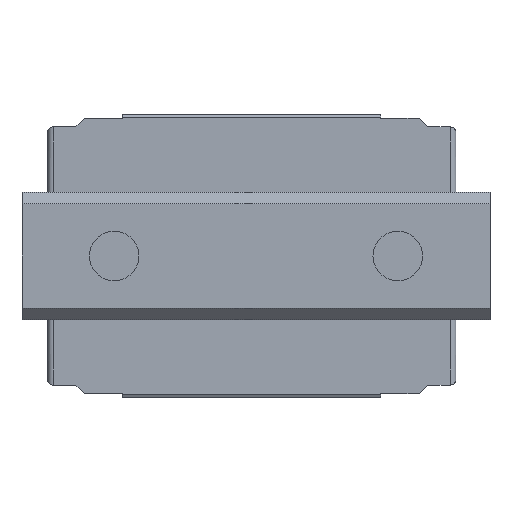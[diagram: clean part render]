
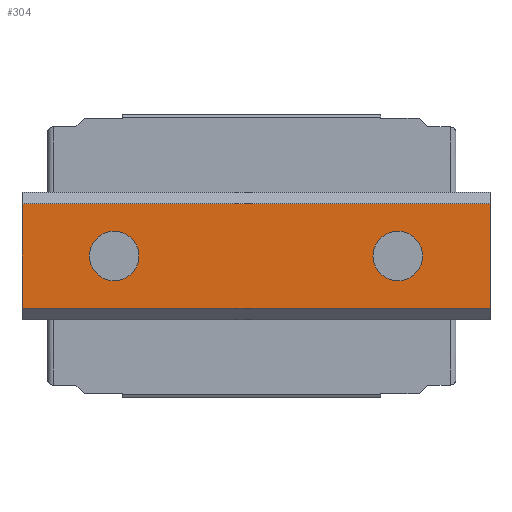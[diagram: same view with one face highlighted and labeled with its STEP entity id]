
A CAD part, front view. The second image highlights one B-rep face of the part: STEP entity #304.
In plain terms, the highlighted planar face has unit normal (0, -1, 0).
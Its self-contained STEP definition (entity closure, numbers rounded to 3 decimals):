
#304 = ADVANCED_FACE( '', ( #632, #633, #634 ), #635, .F. );
#632 = FACE_BOUND( '', #988, .T. );
#633 = FACE_BOUND( '', #989, .T. );
#634 = FACE_OUTER_BOUND( '', #990, .T. );
#635 = PLANE( '', #991 );
#988 = EDGE_LOOP( '', ( #1703 ) );
#989 = EDGE_LOOP( '', ( #1704 ) );
#990 = EDGE_LOOP( '', ( #1705, #1706, #1707, #1708 ) );
#991 = AXIS2_PLACEMENT_3D( '', #1709, #1710, #1711 );
#1703 = ORIENTED_EDGE( '', *, *, #2247, .T. );
#1704 = ORIENTED_EDGE( '', *, *, #2214, .T. );
#1705 = ORIENTED_EDGE( '', *, *, #2323, .T. );
#1706 = ORIENTED_EDGE( '', *, *, #2296, .F. );
#1707 = ORIENTED_EDGE( '', *, *, #2313, .F. );
#1708 = ORIENTED_EDGE( '', *, *, #2184, .T. );
#1709 = CARTESIAN_POINT( '', ( 16.5, 0., 3.7 ) );
#1710 = DIRECTION( '', ( 0., 1., 0. ) );
#1711 = DIRECTION( '', ( 0., 0., 1. ) );
#2184 = EDGE_CURVE( '', #2641, #2639, #2642, .T. );
#2214 = EDGE_CURVE( '', #2686, #2686, #2687, .T. );
#2247 = EDGE_CURVE( '', #2734, #2734, #2735, .T. );
#2296 = EDGE_CURVE( '', #2807, #2802, #2809, .T. );
#2313 = EDGE_CURVE( '', #2641, #2807, #2830, .T. );
#2323 = EDGE_CURVE( '', #2639, #2802, #2840, .T. );
#2639 = VERTEX_POINT( '', #3246 );
#2641 = VERTEX_POINT( '', #3249 );
#2642 = LINE( '', #3250, #3251 );
#2686 = VERTEX_POINT( '', #3310 );
#2687 = CIRCLE( '', #3311, 1.75 );
#2734 = VERTEX_POINT( '', #3380 );
#2735 = CIRCLE( '', #3381, 1.75 );
#2802 = VERTEX_POINT( '', #3468 );
#2807 = VERTEX_POINT( '', #3475 );
#2809 = LINE( '', #3478, #3479 );
#2830 = LINE( '', #3506, #3507 );
#2840 = LINE( '', #3520, #3521 );
#3246 = CARTESIAN_POINT( '', ( -16.5, 0., 3.7 ) );
#3249 = CARTESIAN_POINT( '', ( 16.5, 0., 3.7 ) );
#3250 = CARTESIAN_POINT( '', ( 16.5, 0., 3.7 ) );
#3251 = VECTOR( '', #3810, 1000. );
#3310 = CARTESIAN_POINT( '', ( -10., 0., 1.75 ) );
#3311 = AXIS2_PLACEMENT_3D( '', #3844, #3845, #3846 );
#3380 = CARTESIAN_POINT( '', ( 10., 0., 1.75 ) );
#3381 = AXIS2_PLACEMENT_3D( '', #3878, #3879, #3880 );
#3468 = CARTESIAN_POINT( '', ( -16.5, 0., -3.7 ) );
#3475 = CARTESIAN_POINT( '', ( 16.5, 0., -3.7 ) );
#3478 = CARTESIAN_POINT( '', ( 16.5, 0., -3.7 ) );
#3479 = VECTOR( '', #3937, 1000. );
#3506 = CARTESIAN_POINT( '', ( 16.5, 0., 3.7 ) );
#3507 = VECTOR( '', #3956, 1000. );
#3520 = CARTESIAN_POINT( '', ( -16.5, 0., 3.7 ) );
#3521 = VECTOR( '', #3966, 1000. );
#3810 = DIRECTION( '', ( -1., 0., 0. ) );
#3844 = CARTESIAN_POINT( '', ( -10., 0., 0. ) );
#3845 = DIRECTION( '', ( 0., 1., 0. ) );
#3846 = DIRECTION( '', ( 0., 0., 1. ) );
#3878 = CARTESIAN_POINT( '', ( 10., 0., 0. ) );
#3879 = DIRECTION( '', ( 0., 1., 0. ) );
#3880 = DIRECTION( '', ( 0., 0., 1. ) );
#3937 = DIRECTION( '', ( -1., 0., 0. ) );
#3956 = DIRECTION( '', ( 0., 0., -1. ) );
#3966 = DIRECTION( '', ( 0., 0., -1. ) );
